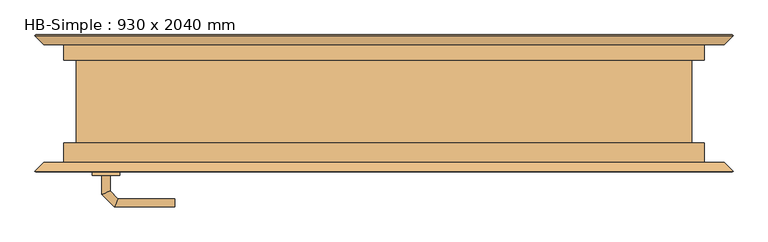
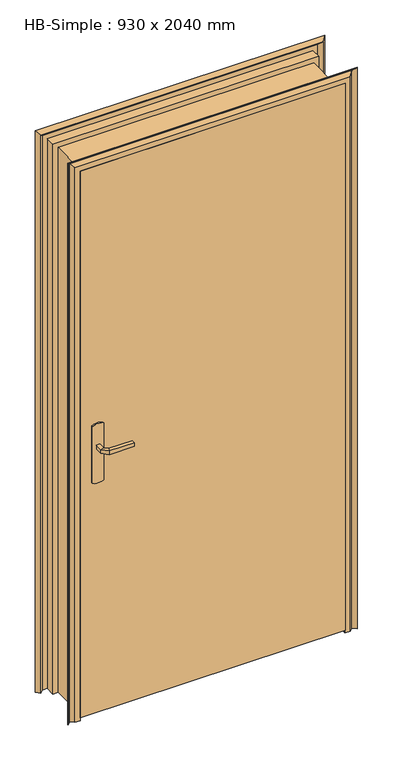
"""IFC4 building model written with IfcOpenShell, lengths in millimetres: door geometry, HB-Simple : 930 x 2040 mm."""

from ifc_helpers import new_model, si_unit, point, frame, frame_2d, origin, place, context, project, spatial, polyline, circle_curve, ellipse_curve, trimmed, segment, composite_curve, outline, extrude, faceted_brep, source, transform, mapped, element, save
from ifc_brep_helpers import plane_surface, cylinder_surface, advanced_brep


def hb_simple_930_x_2040_mm_eef520c9(model_context):
    return source(origin(), model_context, "Body", "SolidModel", [
        advanced_brep(
        [(-399.0, -55.0, 993.0), (-399.0, -55.0, 1007.0), (-411.0, -55.0, 1007.0), (-411.0, -55.0, 993.0), (-399.0, -32.5147955, 993.0), (-399.0, -32.5147955, 1007.0), (-411.0, -27.5442327, 1007.0), (-411.0, -27.5442327, 993.0), (-387.5147186, -21.0295141, 993.0), (-387.5147186, -21.0295141, 1007.0), (-392.4852814, -9.0295141, 1007.0), (-392.4852814, -9.0295141, 993.0), (-304.9542163, -21.0295141, 993.0), (-304.9542163, -9.0295141, 993.0), (-304.9542163, -9.0295141, 1007.0), (-304.9542163, -21.0295141, 1007.0)],
        [
            (0, 1),
            (1, 2, circle_curve(frame((-405.0, -55.0, 986.9542278), z_axis=(0.0, -1.0, 0.0), x_axis=(-1.0, 0.0, 0.0)), 20.9244589)),
            (2, 3),
            (3, 0, circle_curve(frame((-405.0, -55.0, 1013.0457722), z_axis=(0.0, -1.0, 0.0), x_axis=(-1.0, 0.0, 0.0)), 20.9244589)),
            (0, 4),
            (4, 5),
            (5, 1),
            (5, 6, ellipse_curve(frame((-405.0, -30.0295141, 986.9542278), z_axis=(-0.38268343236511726, -0.9238795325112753, 0.0), x_axis=(0.9238795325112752, -0.38268343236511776, 0.0)), 22.6484711, 20.9244589)),
            (6, 2),
            (6, 7),
            (7, 3),
            (7, 4, ellipse_curve(frame((-405.0, -30.0295141, 1013.0457722), z_axis=(-0.38268343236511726, -0.9238795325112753, 0.0), x_axis=(0.9238795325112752, -0.38268343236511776, 0.0)), 22.6484711, 20.9244589)),
            (4, 8),
            (8, 9),
            (9, 5),
            (9, 10, ellipse_curve(frame((-390.0, -15.0295141, 986.9542278), z_axis=(-0.9238795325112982, -0.38268343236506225, 0.0), x_axis=(0.3826834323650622, -0.9238795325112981, 0.0)), 22.6484711, 20.9244589)),
            (10, 6),
            (10, 11),
            (11, 7),
            (11, 8, ellipse_curve(frame((-390.0, -15.0295141, 1013.0457722), z_axis=(-0.9238795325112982, -0.38268343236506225, 0.0), x_axis=(0.3826834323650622, -0.9238795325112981, 0.0)), 22.6484711, 20.9244589)),
            (12, 13, circle_curve(frame((-304.9542163, -15.0295141, 1013.0457722), z_axis=(1.0, 0.0, 0.0), x_axis=(0.0, 1.0, 0.0)), 20.9244589)),
            (13, 14),
            (14, 15, circle_curve(frame((-304.9542163, -15.0295141, 986.9542278), z_axis=(1.0, 0.0, 0.0), x_axis=(0.0, 1.0, 0.0)), 20.9244589)),
            (15, 12),
            (8, 12),
            (15, 9),
            (14, 10),
            (13, 11),
        ],
        [
            plane_surface(frame((-414.2195445, -55.0, 1000.0), z_axis=(0.0, -1.0, 0.0), x_axis=(0.0, 0.0, 1.0))),
            plane_surface(frame((-399.0, -55.0, 993.0), z_axis=(1.0, 0.0, 0.0), x_axis=(0.0, 1.0, 0.0))),
            cylinder_surface(frame((-405.0, -55.0, 986.9542278), z_axis=(0.0, -1.0, 0.0), x_axis=(-1.0, 0.0, 0.0)), 20.9244589),
            plane_surface(frame((-411.0, -55.0, 1007.0), z_axis=(-1.0, 0.0, 0.0), x_axis=(0.0, 1.0, 0.0))),
            cylinder_surface(frame((-405.0, -55.0, 1013.0457722), z_axis=(0.0, -1.0, 0.0), x_axis=(-1.0, 0.0, 0.0)), 20.9244589),
            plane_surface(frame((-399.0, -32.5147955, 993.0), z_axis=(0.7071067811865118, -0.7071067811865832, 0.0), x_axis=(0.7071067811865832, 0.7071067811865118, 0.0))),
            cylinder_surface(frame((-405.0, -30.0295141, 986.9542278), z_axis=(-0.7071067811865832, -0.7071067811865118, 0.0), x_axis=(-0.7071067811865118, 0.7071067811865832, 0.0)), 20.9244589),
            plane_surface(frame((-411.0, -27.5442327, 1007.0), z_axis=(-0.7071067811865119, 0.7071067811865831, 0.0), x_axis=(0.7071067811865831, 0.7071067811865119, 0.0))),
            cylinder_surface(frame((-405.0, -30.0295141, 1013.0457722), z_axis=(-0.7071067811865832, -0.7071067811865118, 0.0), x_axis=(-0.7071067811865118, 0.7071067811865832, 0.0)), 20.9244589),
            plane_surface(frame((-304.9542163, -15.0295141, 990.7804555), z_axis=(1.0, 0.0, 0.0), x_axis=(0.0, 1.0, 0.0))),
            plane_surface(frame((-387.5147186, -21.0295141, 993.0), z_axis=(0.0, -1.0, 0.0), x_axis=(1.0, 0.0, 0.0))),
            cylinder_surface(frame((-390.0, -15.0295141, 986.9542278), z_axis=(-1.0, 0.0, 0.0), x_axis=(0.0, 1.0, 0.0)), 20.9244589),
            plane_surface(frame((-392.4852814, -9.0295141, 1007.0), z_axis=(0.0, 1.0, 0.0), x_axis=(1.0, 0.0, 0.0))),
            cylinder_surface(frame((-390.0, -15.0295141, 1013.0457722), z_axis=(-1.0, 0.0, 0.0), x_axis=(0.0, 1.0, 0.0)), 20.9244589),
        ],
        [
            (0, [[1, 2, 3, 4]]),
            (1, [[-1, 5, 6, 7]]),
            (2, [[-2, -7, 8, 9]]),
            (3, [[-3, -9, 10, 11]]),
            (4, [[-4, -11, 12, -5]]),
            (5, [[-6, 13, 14, 15]]),
            (6, [[-8, -15, 16, 17]]),
            (7, [[-10, -17, 18, 19]]),
            (8, [[-12, -19, 20, -13]]),
            (9, [[21, 22, 23, 24]]),
            (10, [[-14, 25, -24, 26]]),
            (11, [[-16, -26, -23, 27]]),
            (12, [[-18, -27, -22, 28]]),
            (13, [[-20, -28, -21, -25]]),
        ],
    ),
        advanced_brep(
        [(-411.0, -105.0, 1007.0), (-399.0, -105.0, 1007.0), (-399.0, -105.0, 993.0), (-411.0, -105.0, 993.0), (-411.0, -132.6509507, 1007.0), (-399.0, -127.680388, 1007.0), (-399.0, -127.680388, 993.0), (-411.0, -132.6509507, 993.0), (-392.62279, -151.0281607, 1007.0), (-387.6522273, -139.0281607, 1007.0), (-387.6522273, -139.0281607, 993.0), (-392.62279, -151.0281607, 993.0), (-304.9813594, -151.0281607, 1007.0), (-304.9813594, -151.0281607, 993.0), (-304.9813594, -139.0281607, 993.0), (-304.9813594, -139.0281607, 1007.0)],
        [
            (0, 1, circle_curve(frame((-405.0, -105.0, 986.9542278), z_axis=(0.0, 1.0, 0.0), x_axis=(1.0, 0.0, 0.0)), 20.9244589)),
            (1, 2),
            (2, 3, circle_curve(frame((-405.0, -105.0, 1013.0457722), z_axis=(0.0, 1.0, 0.0), x_axis=(1.0, 0.0, 0.0)), 20.9244589)),
            (3, 0),
            (0, 4),
            (4, 5, ellipse_curve(frame((-405.0, -130.1656693, 986.9542278), z_axis=(-0.3826834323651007, 0.9238795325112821, 0.0), x_axis=(0.9238795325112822, 0.3826834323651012, 0.0)), 22.6484711, 20.9244589)),
            (5, 1),
            (5, 6),
            (6, 2),
            (6, 7, ellipse_curve(frame((-405.0, -130.1656693, 1013.0457722), z_axis=(-0.3826834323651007, 0.9238795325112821, 0.0), x_axis=(0.9238795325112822, 0.3826834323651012, 0.0)), 22.6484711, 20.9244589)),
            (7, 3),
            (7, 4),
            (4, 8),
            (8, 9, ellipse_curve(frame((-390.1375086, -145.0281607, 986.9542278), z_axis=(-0.9238795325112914, 0.3826834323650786, 0.0), x_axis=(0.38268343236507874, 0.9238795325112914, 0.0)), 22.6484711, 20.9244589)),
            (9, 5),
            (9, 10),
            (10, 6),
            (10, 11, ellipse_curve(frame((-390.1375086, -145.0281607, 1013.0457722), z_axis=(-0.9238795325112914, 0.3826834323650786, 0.0), x_axis=(0.38268343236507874, 0.9238795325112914, 0.0)), 22.6484711, 20.9244589)),
            (11, 7),
            (11, 8),
            (12, 13),
            (13, 14, circle_curve(frame((-304.9813594, -145.0281607, 1013.0457722), z_axis=(1.0, 0.0, 0.0), x_axis=(0.0, 1.0, 0.0)), 20.9244589)),
            (14, 15),
            (15, 12, circle_curve(frame((-304.9813594, -145.0281607, 986.9542278), z_axis=(1.0, 0.0, 0.0), x_axis=(0.0, 1.0, 0.0)), 20.9244589)),
            (8, 12),
            (15, 9),
            (14, 10),
            (13, 11),
        ],
        [
            plane_surface(frame((-414.2195445, -105.0, 1000.0), z_axis=(0.0, 1.0, 0.0), x_axis=(0.0, 0.0, -1.0))),
            cylinder_surface(frame((-405.0, -105.0, 986.9542278), z_axis=(0.0, 1.0, 0.0), x_axis=(1.0, 0.0, 0.0)), 20.9244589),
            plane_surface(frame((-399.0, -105.0, 1007.0), z_axis=(1.0, 0.0, 0.0), x_axis=(0.0, -1.0, 0.0))),
            cylinder_surface(frame((-405.0, -105.0, 1013.0457722), z_axis=(0.0, 1.0, 0.0), x_axis=(1.0, 0.0, 0.0)), 20.9244589),
            plane_surface(frame((-411.0, -105.0, 993.0), z_axis=(-1.0, 0.0, 0.0), x_axis=(0.0, -1.0, 0.0))),
            cylinder_surface(frame((-405.0, -130.1656693, 986.9542278), z_axis=(-0.7071067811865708, 0.7071067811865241, 0.0), x_axis=(0.7071067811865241, 0.7071067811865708, 0.0)), 20.9244589),
            plane_surface(frame((-399.0, -127.680388, 1007.0), z_axis=(0.7071067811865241, 0.7071067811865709, 0.0), x_axis=(0.7071067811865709, -0.7071067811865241, 0.0))),
            cylinder_surface(frame((-405.0, -130.1656693, 1013.0457722), z_axis=(-0.7071067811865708, 0.7071067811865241, 0.0), x_axis=(0.7071067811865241, 0.7071067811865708, 0.0)), 20.9244589),
            plane_surface(frame((-411.0, -132.6509507, 993.0), z_axis=(-0.7071067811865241, -0.7071067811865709, 0.0), x_axis=(0.7071067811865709, -0.7071067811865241, 0.0))),
            plane_surface(frame((-304.9813594, -145.0281607, 990.7804555), z_axis=(1.0, 0.0, 0.0), x_axis=(0.0, 1.0, 0.0))),
            cylinder_surface(frame((-390.1375086, -145.0281607, 986.9542278), z_axis=(-1.0, 0.0, 0.0), x_axis=(0.0, 1.0, 0.0)), 20.9244589),
            plane_surface(frame((-387.6522273, -139.0281607, 1007.0), z_axis=(0.0, 1.0, 0.0), x_axis=(1.0, 0.0, 0.0))),
            cylinder_surface(frame((-390.1375086, -145.0281607, 1013.0457722), z_axis=(-1.0, 0.0, 0.0), x_axis=(0.0, 1.0, 0.0)), 20.9244589),
            plane_surface(frame((-392.62279, -151.0281607, 993.0), z_axis=(0.0, -1.0, 0.0), x_axis=(1.0, 0.0, 0.0))),
        ],
        [
            (0, [[1, 2, 3, 4]]),
            (1, [[-1, 5, 6, 7]]),
            (2, [[-2, -7, 8, 9]]),
            (3, [[-3, -9, 10, 11]]),
            (4, [[-4, -11, 12, -5]]),
            (5, [[-6, 13, 14, 15]]),
            (6, [[-8, -15, 16, 17]]),
            (7, [[-10, -17, 18, 19]]),
            (8, [[-12, -19, 20, -13]]),
            (9, [[21, 22, 23, 24]]),
            (10, [[-14, 25, -24, 26]]),
            (11, [[-16, -26, -23, 27]]),
            (12, [[-18, -27, -22, 28]]),
            (13, [[-20, -28, -21, -25]]),
        ],
    ),
        extrude(outline(composite_curve([segment(trimmed(circle_curve(frame_2d((1045.3589838, -405.0)), 40.0), [point((1080.0, -385.0))], [point((1080.0, -425.0))], False, "CARTESIAN"), True, "CONTINUOUS"), segment(polyline([(1080.0, -425.0), (870.0, -425.0)]), True, "CONTINUOUS"), segment(trimmed(circle_curve(frame_2d((904.6410162, -405.0)), 40.0), [point((870.0, -425.0))], [point((870.0, -385.0))], False, "CARTESIAN"), True, "CONTINUOUS"), segment(polyline([(870.0, -385.0), (1080.0, -385.0)]), True, "CONTINUOUS")], self_intersect=False)), frame((0.0, -60.0, 0.0), z_axis=(0.0, 1.0, 0.0), x_axis=(0.0, 0.0, 1.0)), (0.0, 0.0, 1.0), 5.0),
        extrude(outline(composite_curve([segment(trimmed(circle_curve(frame_2d((904.6410162, -405.0)), 40.0), [point((870.0, -425.0))], [point((870.0, -385.0))], False, "CARTESIAN"), True, "CONTINUOUS"), segment(polyline([(870.0, -385.0), (1080.0, -385.0)]), True, "CONTINUOUS"), segment(trimmed(circle_curve(frame_2d((1045.3589838, -405.0)), 40.0), [point((1080.0, -385.0))], [point((1080.0, -425.0))], False, "CARTESIAN"), True, "CONTINUOUS"), segment(polyline([(1080.0, -425.0), (870.0, -425.0)]), True, "CONTINUOUS")], self_intersect=False)), frame((0.0, -105.0, 0.0), z_axis=(0.0, 1.0, 0.0), x_axis=(0.0, 0.0, 1.0)), (0.0, 0.0, 1.0), 5.0),
        extrude(outline(polyline([(-465.0, -60.0), (465.0, -60.0), (465.0, -100.0), (-465.0, -100.0), (-465.0, -60.0)])), frame((0.0, 0.0, 10.0), z_axis=(0.0, 0.0, 1.0), x_axis=(1.0, 0.0, 0.0)), (0.0, 0.0, 1.0), 2030.0),
        faceted_brep([(483.5, -100.0, 0.0), (465.5201865, -100.0, 0.0), (465.0, -98.9798135, 0.0), (465.0, -60.0, 0.0), (447.5186374, -60.0, 0.0), (446.5, -58.9813626, 0.0), (446.5, 64.0454714, 0.0), (447.4545286, 65.0, 0.0), (465.0, 65.0, 0.0), (465.0, 98.9205021, 0.0), (465.5794979, 100.0, 0.0), (483.5, 100.0, 0.0), (495.5, 88.0, 0.0), (507.5, 100.0, 0.0), (508.5, 99.0, 0.0), (495.5, 86.0, 0.0), (483.5, 98.0, 0.0), (466.5, 98.0, 0.0), (466.5, 63.0, 0.0), (448.5, 63.0, 0.0), (448.5, -58.0, 0.0), (466.5, -58.0, 0.0), (466.5, -98.0, 0.0), (483.5, -98.0, 0.0), (495.5, -86.0, 0.0), (508.5, -99.0, 0.0), (507.5, -100.0, 0.0), (495.5, -88.0, 0.0), (483.5, -100.0, 2058.5), (-483.5, -100.0, 2058.5), (-483.5, -100.0, 0.0), (-465.5201865, -100.0, 0.0), (-465.5201865, -100.0, 2040.5201865), (465.5201865, -100.0, 2040.5201865), (465.0, -98.9798135, 2040.0), (465.0, -60.0, 2040.0), (-465.0, -60.0, 2040.0), (-465.0, -60.0, 0.0), (-447.5186374, -60.0, 0.0), (-447.5186374, -60.0, 2022.5186374), (447.5186374, -60.0, 2022.5186374), (446.5, -58.9813626, 2021.5), (446.5, 64.0454714, 2021.5), (447.4545286, 65.0, 2022.4545286), (-447.4545286, 65.0, 2022.4545286), (-447.4545286, 65.0, 0.0), (-465.0, 65.0, 0.0), (-465.0, 65.0, 2040.0), (465.0, 65.0, 2040.0), (465.0, 98.9205021, 2040.0), (465.5794979, 100.0, 2040.5794979), (-465.5794979, 100.0, 2040.5794979), (-465.5794979, 100.0, 0.0), (-483.5, 100.0, 0.0), (-483.5, 100.0, 2058.5), (483.5, 100.0, 2058.5), (495.5, 88.0, 2070.5), (507.5, 100.0, 2082.5), (508.5, 99.0, 2083.5), (495.5, 86.0, 2070.5), (483.5, 98.0, 2058.5), (-483.5, 98.0, 2058.5), (-483.5, 98.0, 0.0), (-466.5, 98.0, 0.0), (-466.5, 98.0, 2041.5), (466.5, 98.0, 2041.5), (466.5, 63.0, 2041.5), (-466.5, 63.0, 2041.5), (-466.5, 63.0, 0.0), (-448.5, 63.0, 0.0), (-448.5, 63.0, 2023.5), (448.5, 63.0, 2023.5), (448.5, -58.0, 2023.5), (-448.5, -58.0, 2023.5), (-448.5, -58.0, 0.0), (-466.5, -58.0, 0.0), (-466.5, -58.0, 2041.5), (466.5, -58.0, 2041.5), (466.5, -98.0, 2041.5), (-466.5, -98.0, 2041.5), (-466.5, -98.0, 0.0), (-483.5, -98.0, 0.0), (-483.5, -98.0, 2058.5), (483.5, -98.0, 2058.5), (495.5, -86.0, 2070.5), (508.5, -99.0, 2083.5), (507.5, -100.0, 2082.5), (495.5, -88.0, 2070.5), (-495.5, -88.0, 0.0), (-507.5, -100.0, 0.0), (-508.5, -99.0, 0.0), (-495.5, -86.0, 0.0), (-495.5, 86.0, 0.0), (-508.5, 99.0, 0.0), (-507.5, 100.0, 0.0), (-495.5, 88.0, 0.0), (-465.0, 98.9205021, 0.0), (-446.5, 64.0454714, 0.0), (-446.5, -58.9813626, 0.0), (-465.0, -98.9798135, 0.0), (-495.5, -88.0, 2070.5), (-507.5, -100.0, 2082.5), (-508.5, -99.0, 2083.5), (-495.5, -86.0, 2070.5), (-495.5, 86.0, 2070.5), (-508.5, 99.0, 2083.5), (-507.5, 100.0, 2082.5), (-495.5, 88.0, 2070.5), (-465.0, 98.9205021, 2040.0), (-446.5, 64.0454714, 2021.5), (-446.5, -58.9813626, 2021.5), (-465.0, -98.9798135, 2040.0)], [[[0, 1, 2, 3, 4, 5, 6, 7, 8, 9, 10, 11, 12, 13, 14, 15, 16, 17, 18, 19, 20, 21, 22, 23, 24, 25, 26, 27]], [[1, 0, 28, 29, 30, 31, 32, 33]], [[2, 1, 33, 34]], [[3, 2, 34, 35]], [[4, 3, 35, 36, 37, 38, 39, 40]], [[5, 4, 40, 41]], [[6, 5, 41, 42]], [[7, 6, 42, 43]], [[8, 7, 43, 44, 45, 46, 47, 48]], [[9, 8, 48, 49]], [[10, 9, 49, 50]], [[11, 10, 50, 51, 52, 53, 54, 55]], [[12, 11, 55, 56]], [[13, 12, 56, 57]], [[14, 13, 57, 58]], [[15, 14, 58, 59]], [[16, 15, 59, 60]], [[17, 16, 60, 61, 62, 63, 64, 65]], [[18, 17, 65, 66]], [[19, 18, 66, 67, 68, 69, 70, 71]], [[20, 19, 71, 72]], [[21, 20, 72, 73, 74, 75, 76, 77]], [[22, 21, 77, 78]], [[23, 22, 78, 79, 80, 81, 82, 83]], [[24, 23, 83, 84]], [[25, 24, 84, 85]], [[26, 25, 85, 86]], [[27, 26, 86, 87]], [[0, 27, 87, 28]], [[30, 88, 89, 90, 91, 81, 80, 75, 74, 69, 68, 63, 62, 92, 93, 94, 95, 53, 52, 96, 46, 45, 97, 98, 38, 37, 99, 31]], [[29, 100, 88, 30]], [[100, 101, 89, 88]], [[101, 102, 90, 89]], [[102, 103, 91, 90]], [[103, 82, 81, 91]], [[79, 76, 75, 80]], [[73, 70, 69, 74]], [[67, 64, 63, 68]], [[61, 104, 92, 62]], [[104, 105, 93, 92]], [[105, 106, 94, 93]], [[106, 107, 95, 94]], [[107, 54, 53, 95]], [[51, 108, 96, 52]], [[108, 47, 46, 96]], [[44, 109, 97, 45]], [[109, 110, 98, 97]], [[110, 39, 38, 98]], [[36, 111, 99, 37]], [[111, 32, 31, 99]], [[35, 34, 111, 36]], [[42, 41, 110, 109]], [[49, 48, 47, 108]], [[66, 65, 64, 67]], [[72, 71, 70, 73]], [[78, 77, 76, 79]], [[34, 33, 32, 111]], [[41, 40, 39, 110]], [[43, 42, 109, 44]], [[50, 49, 108, 51]], [[56, 55, 54, 107]], [[57, 56, 107, 106]], [[58, 57, 106, 105]], [[59, 58, 105, 104]], [[60, 59, 104, 61]], [[84, 83, 82, 103]], [[85, 84, 103, 102]], [[86, 85, 102, 101]], [[87, 86, 101, 100]], [[28, 87, 100, 29]]]),
    ])


if __name__ == "__main__":
    model = new_model("IFC4")
    model_context = context("Model", 3, world=origin())
    ifc_project = project(units=[si_unit("LENGTHUNIT", "METRE", prefix="MILLI")], contexts=[model_context])
    site = spatial("IfcSite", under=ifc_project)
    building = spatial("IfcBuilding", under=site)
    placement = place(None, origin())
    hb_simple_930_x_2040_mm_shape = hb_simple_930_x_2040_mm_eef520c9(model_context)
    element("IfcDoor", 1, ObjectType="HB-Simple : 930 x 2040 mm", at=placement, inside=building, context=model_context, shape_type="MappedRepresentation", body=[
        mapped(hb_simple_930_x_2040_mm_shape, transform((0.0, 0.0, 0.0), x_axis=(1.0, 0.0, 0.0), y_axis=(0.0, 1.0, 0.0), z_axis=(0.0, 0.0, 1.0))),
    ])
    save(model, "model.ifc")
